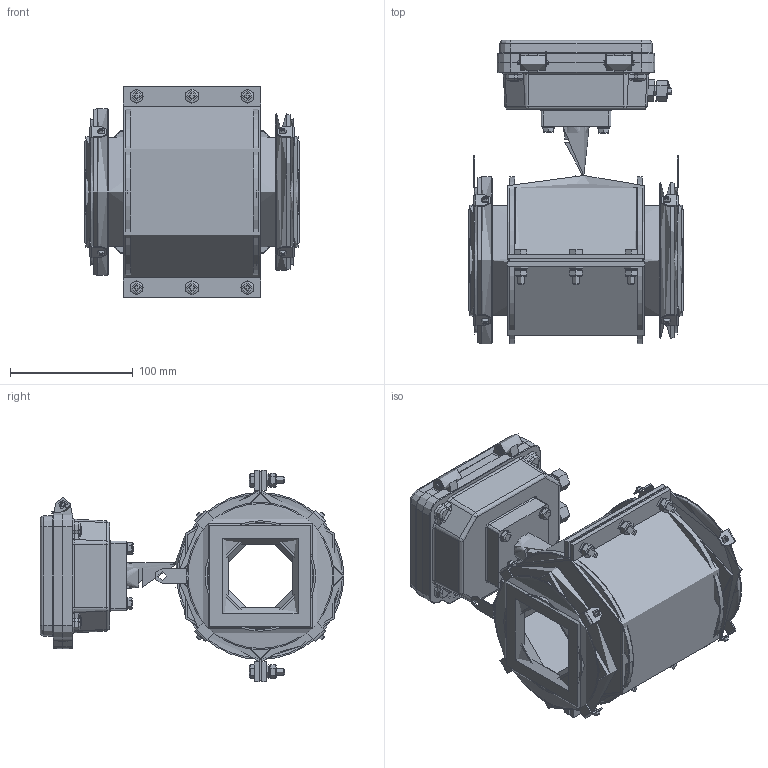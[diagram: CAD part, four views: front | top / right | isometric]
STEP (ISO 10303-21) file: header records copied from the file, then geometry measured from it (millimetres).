
FILE_DESCRIPTION(('STEP AP214'), '1');
FILE_NAME('Âçëåò ÝÌ ÏÐÎÔÈ DN80 Ñýíäâè÷', '', ('UNSPECIFIED'), ('UNSPECIFIED'), 'ASCON STEP Converter 1.6', 'ASCON Math Kernel', '');
FILE_SCHEMA(('AUTOMOTIVE_DESIGN { 1 0 10303 214 3 1 1}'));
Length unit declared in the file: millimetre
Products named in the file (1): 婽挭.407212.031-001.10
Bounding box: 175 x 247.37 x 172 mm (x, y, z)
Topology: 7 solids, 12 shells, 1681 faces, 4107 edges, 2513 vertices
Faces by surface type: plane 853, cylinder 456, cone 175, torus 149, bspline 38, sphere 10
Full cylindrical faces by diameter (mm): 0.8 x2, 2 x2, 3 x4, 3.242 x14, 3.3 x2, 4 x18, 5 x9, 5.5 x1, 6 x16, 6.4 x6, 7 x27, 7.5 x2, 8 x2, 10 x4, 11 x6, 12 x8, 12.5 x2, 16.5 x2, 18 x1, 19 x1, 20 x1, 21 x2, 25 x1, 30 x1, 74 x1, 81 x2, 83 x2, 89 x1, 90 x4, 118 x2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
Entity records: 83181 total; most frequent: CARTESIAN_POINT 25973, DIRECTION 8327, ORIENTED_EDGE 7492, EDGE_CURVE 3746, AXIS2_PLACEMENT_3D 3236, VERTEX_POINT 2487, EDGE_LOOP 2195, LINE 1855
